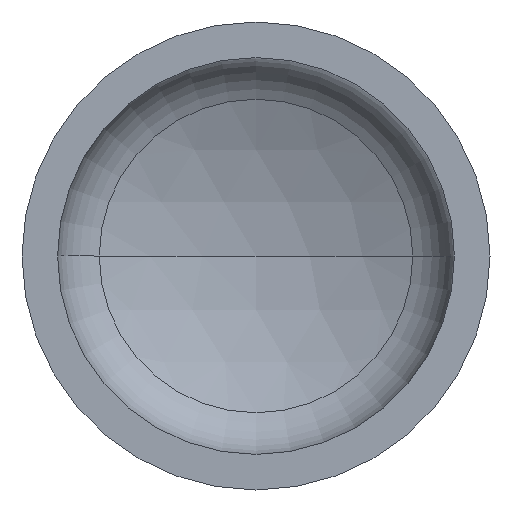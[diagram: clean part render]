
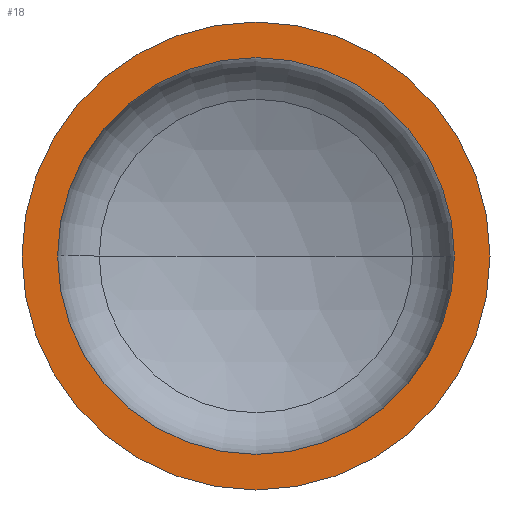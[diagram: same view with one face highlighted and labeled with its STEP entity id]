
A CAD part, front view. The second image highlights one B-rep face of the part: STEP entity #18.
In plain terms, the highlighted planar face has unit normal (0, -1, 0).
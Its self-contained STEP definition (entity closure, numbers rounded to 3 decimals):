
#2 = AXIS2_PLACEMENT_3D ( 'NONE', #229, #233, #230 ) ;
#4 = EDGE_LOOP ( 'NONE', ( #57, #17 ) ) ;
#15 = DIRECTION ( 'NONE',  ( 0., -1., 0. ) ) ;
#17 = ORIENTED_EDGE ( 'NONE', *, *, #25, .T. ) ;
#18 = ADVANCED_FACE ( 'NONE', ( #102, #117 ), #275, .F. ) ;
#25 = EDGE_CURVE ( 'NONE', #95, #96, #383, .T. ) ;
#32 = EDGE_CURVE ( 'NONE', #79, #78, #183, .T. ) ;
#38 = CARTESIAN_POINT ( 'NONE',  ( 0., 0., 0. ) ) ;
#41 = AXIS2_PLACEMENT_3D ( 'NONE', #38, #15, #243 ) ;
#45 = CARTESIAN_POINT ( 'NONE',  ( 750., 0., 0. ) ) ;
#49 = EDGE_LOOP ( 'NONE', ( #101, #62 ) ) ;
#57 = ORIENTED_EDGE ( 'NONE', *, *, #70, .T. ) ;
#62 = ORIENTED_EDGE ( 'NONE', *, *, #338, .F. ) ;
#70 = EDGE_CURVE ( 'NONE', #96, #95, #246, .T. ) ;
#78 = VERTEX_POINT ( 'NONE', #141 ) ;
#79 = VERTEX_POINT ( 'NONE', #190 ) ;
#95 = VERTEX_POINT ( 'NONE', #204 ) ;
#96 = VERTEX_POINT ( 'NONE', #45 ) ;
#101 = ORIENTED_EDGE ( 'NONE', *, *, #32, .F. ) ;
#102 = FACE_BOUND ( 'NONE', #49, .T. ) ;
#117 = FACE_OUTER_BOUND ( 'NONE', #4, .T. ) ;
#141 = CARTESIAN_POINT ( 'NONE',  ( -636., 0., 0. ) ) ;
#183 = CIRCLE ( 'NONE', #356, 636. ) ;
#189 = DIRECTION ( 'NONE',  ( 1., 0., 0. ) ) ;
#190 = CARTESIAN_POINT ( 'NONE',  ( 636., 0., 0. ) ) ;
#204 = CARTESIAN_POINT ( 'NONE',  ( -750., 0., 0. ) ) ;
#229 = CARTESIAN_POINT ( 'NONE',  ( -750., 0., 0. ) ) ;
#230 = DIRECTION ( 'NONE',  ( -1., 0., 0. ) ) ;
#233 = DIRECTION ( 'NONE',  ( 0., 1., 0. ) ) ;
#243 = DIRECTION ( 'NONE',  ( 1., 0., 0. ) ) ;
#246 = CIRCLE ( 'NONE', #41, 750. ) ;
#248 = DIRECTION ( 'NONE',  ( 1., 0., 0. ) ) ;
#263 = AXIS2_PLACEMENT_3D ( 'NONE', #310, #309, #315 ) ;
#270 = CIRCLE ( 'NONE', #360, 636. ) ;
#271 = CARTESIAN_POINT ( 'NONE',  ( 0., 0., 0. ) ) ;
#275 = PLANE ( 'NONE',  #2 ) ;
#298 = DIRECTION ( 'NONE',  ( 0., -1., 0. ) ) ;
#302 = CARTESIAN_POINT ( 'NONE',  ( 0., 0., 0. ) ) ;
#309 = DIRECTION ( 'NONE',  ( 0., -1., 0. ) ) ;
#310 = CARTESIAN_POINT ( 'NONE',  ( 0., 0., 0. ) ) ;
#315 = DIRECTION ( 'NONE',  ( 1., 0., 0. ) ) ;
#338 = EDGE_CURVE ( 'NONE', #78, #79, #270, .T. ) ;
#356 = AXIS2_PLACEMENT_3D ( 'NONE', #302, #298, #189 ) ;
#360 = AXIS2_PLACEMENT_3D ( 'NONE', #271, #395, #248 ) ;
#383 = CIRCLE ( 'NONE', #263, 750. ) ;
#395 = DIRECTION ( 'NONE',  ( 0., -1., 0. ) ) ;
